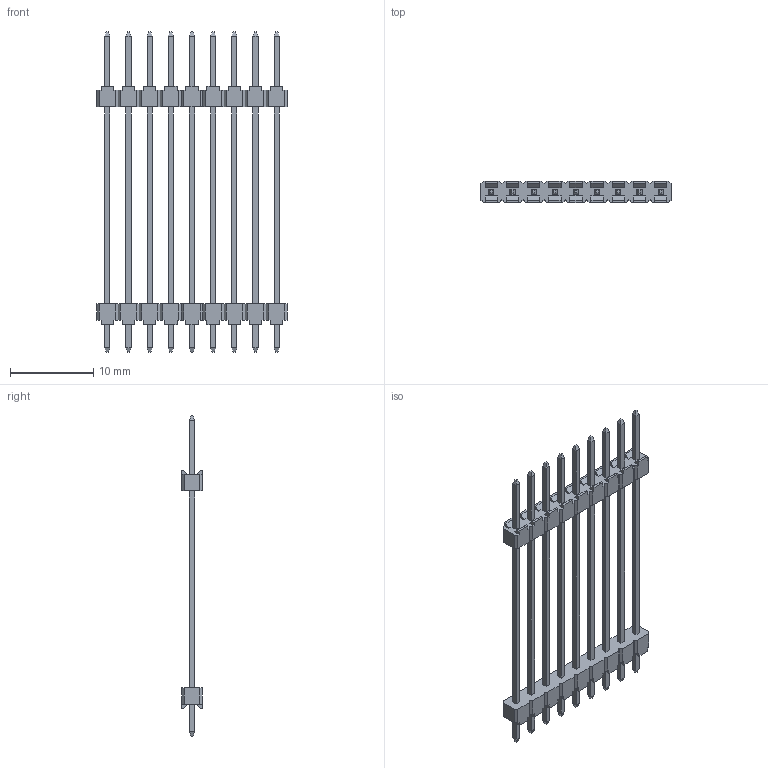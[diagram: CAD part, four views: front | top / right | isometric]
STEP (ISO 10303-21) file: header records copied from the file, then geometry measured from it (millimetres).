
FILE_DESCRIPTION(/* description */ (''),/* implementation_level */ '2;1');
FILE_NAME(/* name */ '961409-9041504-XX',/* time_stamp */ '2007-06-14T17:30:43+02:00',/* author */ (''),/* organization */ (''),/* preprocessor_version */ 'ST-DEVELOPER v9',/* originating_system */ 'UGS - NX 3.0',/* authorisation */ '');
FILE_SCHEMA (('AUTOMOTIVE_DESIGN { 1 0 10303 214 1 1 1 1 }'));
Length unit declared in the file: millimetre
Products named in the file (1): 961409-9041504-XX
Bounding box: 22.86 x 2.5 x 38.4 mm (x, y, z)
Volume: 358.4 mm3; surface area: 1260.6 mm2
Topology: 1 solids, 1 shells, 498 faces, 1356 edges, 880 vertices
Faces by surface type: plane 498
Entity records: 15340 total; most frequent: CARTESIAN_POINT 2735, ORIENTED_EDGE 2712, DIRECTION 2354, EDGE_CURVE 1356, LINE 1356, VECTOR 1356, VERTEX_POINT 880, EDGE_LOOP 534
